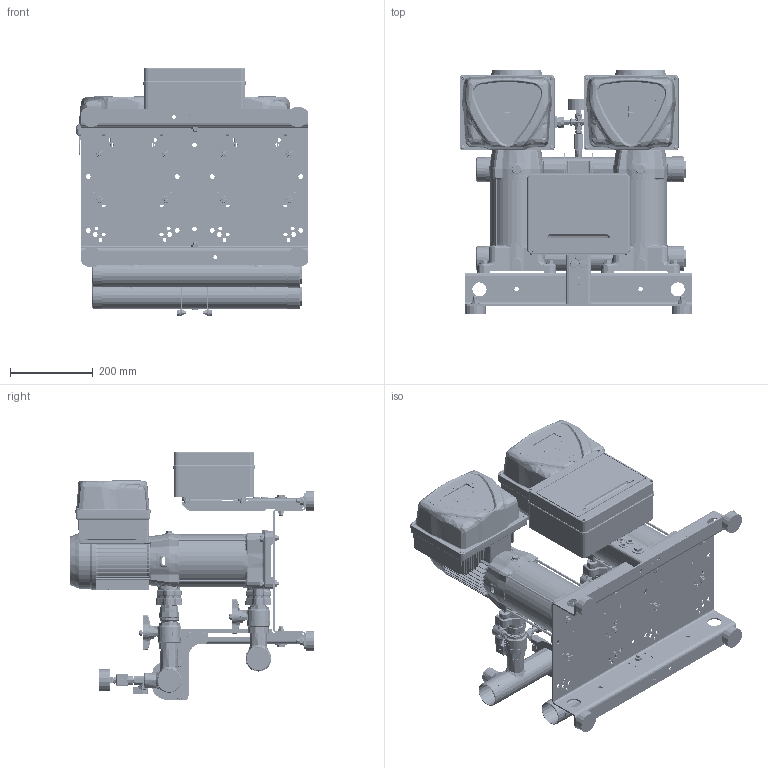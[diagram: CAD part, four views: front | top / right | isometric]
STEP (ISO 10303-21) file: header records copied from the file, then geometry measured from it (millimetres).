
FILE_DESCRIPTION((''),'2;1');
FILE_NAME('2GPE_CVM_A12_ESPT_REV4_ASM','2024-12-03T12:59:05',('Utente'),('"Ebara Pumps Europe S.p.A"'),'CREO PARAMETRIC BY PTC INC, 2022124','CREO PARAMETRIC BY PTC INC, 2022124','');
FILE_SCHEMA(('AUTOMOTIVE_DESIGN { 1 0 10303 214 1 1 1 1 }'));
Products named in the file (45): 62508_275562936; CALOTTA_F_A304_DN50_369800820; VAL_INT_MF_OTN_CIM301-14_DN32; VAL_INT_M-F_OTN_CIM301_DN32_ASM; EP_CVM_A-12_R; EP_CVM_A-12_R_ASM; ADATTATORE_E-SPD_MEC71; E-SPD_ADATTATORE_MEC71_ASM; BACK_E-SPD_PLUS_2200-4000; COVER_E-SPD_PLUS_2200-4000; COM_E-SPDT_MEC71_VERT_ASM; VAL-NR-MF-OTN-CIM32-DN32; VALV_NR_MF_CIM32_DN32_ASM; RONDEL-P_FE_ZN_UNI6592_M10; DADO_AUTOAGG_M10_ESAG; VITI_TE_ISO4017_M10_L40; 62513_275562944; VAL_INT_MF_OTN_CIM012_DN8; NIPPLO_OTG_8_380000861; CROCE_OTG_DN8_380000881; TRASD_16BAR_460500024; MAN_POS_D50_10BAR_361600003; BASE_2GP_I300-B300_DNRV; MONTANTE_H300_271472898; PIEDINO_CIL_369650010; DADI_NORM_ISO4032_FE_ZN_M10; RONDEL-P_ZN_UNI6593_M10X30X2-5; VITI_TE_ISO4017_M10_L45; TRAVERSO_MONT_L200_271472882; RONDEL-P_FE_ZN_UNI6593_M6X18X2; RONDEL-P_FE_ZN_UNI6592_M6; VITI_TE_ISO4017_M6_L20; DADI_NORM_ISO4032_FE_ZN_M6; DNRV_2P_I300-B300_H300-Q250X198_ASM; QUADRO_PROT_2P_T_ELENTEK; PG_PVC_D10-5_380000891; TAPPO-SALVAFIL_D31; 271473006; 271472998; 72578_271473004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
Assembly tree (134 placements, depth 3):
  2GPE_CVM_A12_ESPT_REV4_ASM
    62508_275562936
    CALOTTA_F_A304_DN50_369800820  x2
    VAL_INT_M-F_OTN_CIM301_DN32_ASM  x4
      VAL_INT_MF_OTN_CIM301-14_DN32
    EP_CVM_A-12_R_ASM  x2
      EP_CVM_A-12_R
    E-SPD_ADATTATORE_MEC71_ASM  x2
      ADATTATORE_E-SPD_MEC71
    COM_E-SPDT_MEC71_VERT_ASM  x2
      BACK_E-SPD_PLUS_2200-4000
      COVER_E-SPD_PLUS_2200-4000
    VALV_NR_MF_CIM32_DN32_ASM  x2
      VAL-NR-MF-OTN-CIM32-DN32
    RONDEL-P_FE_ZN_UNI6592_M10  x8
    DADO_AUTOAGG_M10_ESAG  x9
    VITI_TE_ISO4017_M10_L40  x8
    62513_275562944
    VAL_INT_MF_OTN_CIM012_DN8
    NIPPLO_OTG_8_380000861
    CROCE_OTG_DN8_380000881
    TRASD_16BAR_460500024  x2
    MAN_POS_D50_10BAR_361600003
    DNRV_2P_I300-B300_H300-Q250X198_ASM
      BASE_2GP_I300-B300_DNRV
      MONTANTE_H300_271472898
      PIEDINO_CIL_369650010  x4
      RONDEL-P_FE_ZN_UNI6592_M10  x4
      DADI_NORM_ISO4032_FE_ZN_M10  x4
      RONDEL-P_ZN_UNI6593_M10X30X2-5
      VITI_TE_ISO4017_M10_L45
      TRAVERSO_MONT_L200_271472882  x2
      RONDEL-P_FE_ZN_UNI6593_M6X18X2  x8
      RONDEL-P_FE_ZN_UNI6592_M6  x4
      VITI_TE_ISO4017_M6_L20  x4
      DADI_NORM_ISO4032_FE_ZN_M6  x4
      DADO_AUTOAGG_M10_ESAG
    QUADRO_PROT_2P_T_ELENTEK
    PG_PVC_D10-5_380000891  x3
    TAPPO-SALVAFIL_D31  x2
    271473006
    271472998  x2
    72578_271473004  x2
    RONDEL-P_ZN_UNI6593_M10X30X2-5
    VITI_TE_ISO4017_M10_L45
    RONDEL-P_FE_ZN_UNI6592_M8  x12
    VITI_TE_ISO4017_M8_L18  x8
    DADI_NORM_ISO4032_FE_ZN_M8  x4
    DADO_AUTOAGG_M8_ESAG  x4
Bounding box: 562.5 x 591.6 x 601.25 mm (x, y, z)
Volume: 4290698.6 mm3; surface area: 4681407.7 mm2
Topology: 296 solids, 1277 shells, 32658 faces, 85173 edges, 52542 vertices
Faces by surface type: plane 15767, cylinder 8005, bspline 2637, sphere 2073, cone 1521, extrusion 1426, torus 1229
Entity records: 735294 total; most frequent: CARTESIAN_POINT 288285, ORIENTED_EDGE 74528, DIRECTION 71821, EDGE_CURVE 38610, VERTEX_POINT 24222, AXIS2_PLACEMENT_3D 23963, VECTOR 23763, LINE 23133
